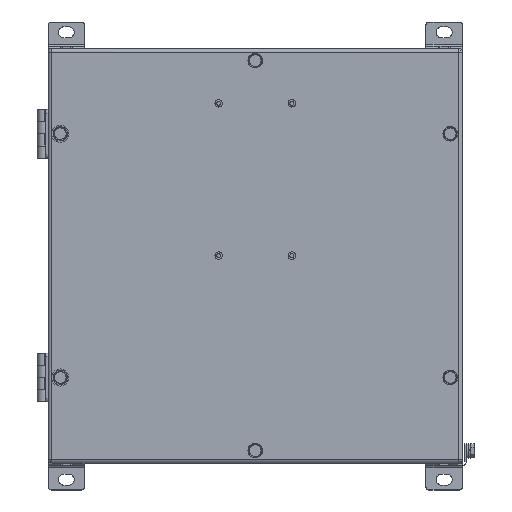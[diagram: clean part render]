
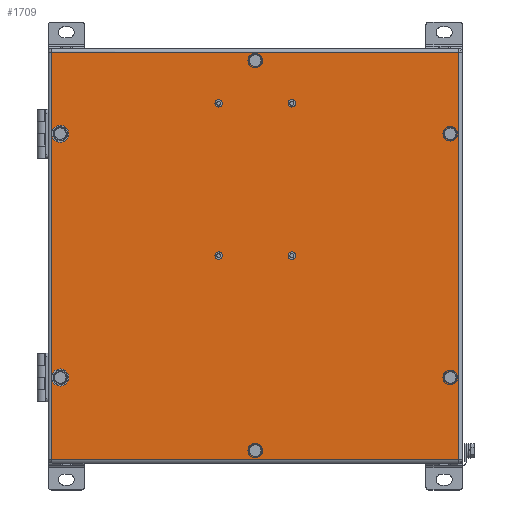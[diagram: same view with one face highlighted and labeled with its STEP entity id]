
A CAD part, top view. The second image highlights one B-rep face of the part: STEP entity #1709.
In plain terms, the highlighted planar face has unit normal (0, 0, 1).
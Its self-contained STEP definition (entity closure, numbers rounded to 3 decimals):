
#1161=CARTESIAN_POINT('',(167.0,-167.,150.));
#1162=VERTEX_POINT('',#1161);
#1228=CARTESIAN_POINT('',(167.0,167.,150.));
#1229=VERTEX_POINT('',#1228);
#1295=CARTESIAN_POINT('',(-167.0,-167.,150.));
#1296=VERTEX_POINT('',#1295);
#1368=CARTESIAN_POINT('',(167.0,-167.,150.));
#1369=DIRECTION('',(-1.0,0.0,0.0));
#1370=VECTOR('',#1369,334.0);
#1371=LINE('',#1368,#1370);
#1372=EDGE_CURVE('',#1162,#1296,#1371,.T.);
#1384=CARTESIAN_POINT('',(-167.0,167.,150.));
#1385=VERTEX_POINT('',#1384);
#1457=CARTESIAN_POINT('',(-167.0,-167.0,150.));
#1458=DIRECTION('',(0.0,1.0,0.0));
#1459=VECTOR('',#1458,334.0);
#1460=LINE('',#1457,#1459);
#1461=EDGE_CURVE('',#1296,#1385,#1460,.T.);
#1479=CARTESIAN_POINT('',(-167.0,167.,150.));
#1480=DIRECTION('',(1.0,0.0,0.0));
#1481=VECTOR('',#1480,334.0);
#1482=LINE('',#1479,#1481);
#1483=EDGE_CURVE('',#1385,#1229,#1482,.T.);
#1501=CARTESIAN_POINT('',(167.0,167.0,150.));
#1502=DIRECTION('',(0.0,-1.0,0.0));
#1503=VECTOR('',#1502,334.0);
#1504=LINE('',#1501,#1503);
#1505=EDGE_CURVE('',#1229,#1162,#1504,.T.);
#1588=CARTESIAN_POINT('',(0.,0.,150.));
#1589=DIRECTION('',(0.0,0.0,1.0));
#1590=DIRECTION('',(1.0,0.0,0.0));
#1591=AXIS2_PLACEMENT_3D('',#1588,#1589,#1590);
#1592=PLANE('',#1591);
#1593=ORIENTED_EDGE('',*,*,#1372,.F.);
#1594=ORIENTED_EDGE('',*,*,#1505,.F.);
#1595=ORIENTED_EDGE('',*,*,#1483,.F.);
#1596=ORIENTED_EDGE('',*,*,#1461,.F.);
#1597=EDGE_LOOP('',(#1593,#1594,#1595,#1596));
#1598=FACE_OUTER_BOUND('',#1597,.T.);
#1599=CARTESIAN_POINT('',(-156.25,100.,150.));
#1600=VERTEX_POINT('',#1599);
#1601=CARTESIAN_POINT('',(-160.0,100.,150.));
#1602=DIRECTION('',(0.0,0.0,-1.0));
#1603=DIRECTION('',(-1.0,0.0,0.0));
#1604=AXIS2_PLACEMENT_3D('',#1601,#1602,#1603);
#1605=CIRCLE('',#1604,3.75);
#1606=EDGE_CURVE('',#1600,#1600,#1605,.T.);
#1607=ORIENTED_EDGE('',*,*,#1606,.T.);
#1608=EDGE_LOOP('',(#1607));
#1609=FACE_BOUND('',#1608,.T.);
#1610=CARTESIAN_POINT('',(163.75,100.0,150.));
#1611=VERTEX_POINT('',#1610);
#1612=CARTESIAN_POINT('',(160.0,100.0,150.));
#1613=DIRECTION('',(0.0,0.0,-1.0));
#1614=DIRECTION('',(-1.0,0.0,0.0));
#1615=AXIS2_PLACEMENT_3D('',#1612,#1613,#1614);
#1616=CIRCLE('',#1615,3.75);
#1617=EDGE_CURVE('',#1611,#1611,#1616,.T.);
#1618=ORIENTED_EDGE('',*,*,#1617,.T.);
#1619=EDGE_LOOP('',(#1618));
#1620=FACE_BOUND('',#1619,.T.);
#1621=CARTESIAN_POINT('',(-156.25,-100.,150.));
#1622=VERTEX_POINT('',#1621);
#1623=CARTESIAN_POINT('',(-160.0,-100.,150.));
#1624=DIRECTION('',(0.0,0.0,-1.0));
#1625=DIRECTION('',(-1.0,0.0,0.0));
#1626=AXIS2_PLACEMENT_3D('',#1623,#1624,#1625);
#1627=CIRCLE('',#1626,3.75);
#1628=EDGE_CURVE('',#1622,#1622,#1627,.T.);
#1629=ORIENTED_EDGE('',*,*,#1628,.T.);
#1630=EDGE_LOOP('',(#1629));
#1631=FACE_BOUND('',#1630,.T.);
#1632=CARTESIAN_POINT('',(163.75,-100.0,150.0));
#1633=VERTEX_POINT('',#1632);
#1634=CARTESIAN_POINT('',(160.0,-100.0,150.0));
#1635=DIRECTION('',(0.0,0.0,-1.0));
#1636=DIRECTION('',(-1.0,0.0,0.0));
#1637=AXIS2_PLACEMENT_3D('',#1634,#1635,#1636);
#1638=CIRCLE('',#1637,3.75);
#1639=EDGE_CURVE('',#1633,#1633,#1638,.T.);
#1640=ORIENTED_EDGE('',*,*,#1639,.T.);
#1641=EDGE_LOOP('',(#1640));
#1642=FACE_BOUND('',#1641,.T.);
#1643=CARTESIAN_POINT('',(3.75,160.,150.));
#1644=VERTEX_POINT('',#1643);
#1645=CARTESIAN_POINT('',(0.,160.,150.));
#1646=DIRECTION('',(0.0,0.0,-1.0));
#1647=DIRECTION('',(-1.0,0.0,0.0));
#1648=AXIS2_PLACEMENT_3D('',#1645,#1646,#1647);
#1649=CIRCLE('',#1648,3.75);
#1650=EDGE_CURVE('',#1644,#1644,#1649,.T.);
#1651=ORIENTED_EDGE('',*,*,#1650,.T.);
#1652=EDGE_LOOP('',(#1651));
#1653=FACE_BOUND('',#1652,.T.);
#1654=CARTESIAN_POINT('',(3.75,-160.,150.));
#1655=VERTEX_POINT('',#1654);
#1656=CARTESIAN_POINT('',(0.,-160.,150.));
#1657=DIRECTION('',(0.0,0.0,-1.0));
#1658=DIRECTION('',(-1.0,0.0,0.0));
#1659=AXIS2_PLACEMENT_3D('',#1656,#1657,#1658);
#1660=CIRCLE('',#1659,3.75);
#1661=EDGE_CURVE('',#1655,#1655,#1660,.T.);
#1662=ORIENTED_EDGE('',*,*,#1661,.T.);
#1663=EDGE_LOOP('',(#1662));
#1664=FACE_BOUND('',#1663,.T.);
#1665=CARTESIAN_POINT('',(33.05,125.,150.));
#1666=VERTEX_POINT('',#1665);
#1667=CARTESIAN_POINT('',(30.,125.,150.));
#1668=DIRECTION('',(0.0,0.0,-1.0));
#1669=DIRECTION('',(-1.0,0.0,0.0));
#1670=AXIS2_PLACEMENT_3D('',#1667,#1668,#1669);
#1671=CIRCLE('',#1670,3.05);
#1672=EDGE_CURVE('',#1666,#1666,#1671,.T.);
#1673=ORIENTED_EDGE('',*,*,#1672,.T.);
#1674=EDGE_LOOP('',(#1673));
#1675=FACE_BOUND('',#1674,.T.);
#1676=CARTESIAN_POINT('',(-26.95,125.,150.));
#1677=VERTEX_POINT('',#1676);
#1678=CARTESIAN_POINT('',(-30.,125.,150.));
#1679=DIRECTION('',(0.0,0.0,-1.0));
#1680=DIRECTION('',(-1.0,0.0,0.0));
#1681=AXIS2_PLACEMENT_3D('',#1678,#1679,#1680);
#1682=CIRCLE('',#1681,3.05);
#1683=EDGE_CURVE('',#1677,#1677,#1682,.T.);
#1684=ORIENTED_EDGE('',*,*,#1683,.T.);
#1685=EDGE_LOOP('',(#1684));
#1686=FACE_BOUND('',#1685,.T.);
#1687=CARTESIAN_POINT('',(-26.95,0.,150.));
#1688=VERTEX_POINT('',#1687);
#1689=CARTESIAN_POINT('',(-30.,0.,150.));
#1690=DIRECTION('',(0.0,0.0,-1.0));
#1691=DIRECTION('',(-1.0,0.0,0.0));
#1692=AXIS2_PLACEMENT_3D('',#1689,#1690,#1691);
#1693=CIRCLE('',#1692,3.05);
#1694=EDGE_CURVE('',#1688,#1688,#1693,.T.);
#1695=ORIENTED_EDGE('',*,*,#1694,.T.);
#1696=EDGE_LOOP('',(#1695));
#1697=FACE_BOUND('',#1696,.T.);
#1698=CARTESIAN_POINT('',(33.05,0.,150.));
#1699=VERTEX_POINT('',#1698);
#1700=CARTESIAN_POINT('',(30.,0.,150.));
#1701=DIRECTION('',(0.0,0.0,-1.0));
#1702=DIRECTION('',(-1.0,0.0,0.0));
#1703=AXIS2_PLACEMENT_3D('',#1700,#1701,#1702);
#1704=CIRCLE('',#1703,3.05);
#1705=EDGE_CURVE('',#1699,#1699,#1704,.T.);
#1706=ORIENTED_EDGE('',*,*,#1705,.T.);
#1707=EDGE_LOOP('',(#1706));
#1708=FACE_BOUND('',#1707,.T.);
#1709=ADVANCED_FACE('',(#1598,#1609,#1620,#1631,#1642,#1653,#1664,#1675,#1686,#1697,#1708),#1592,.T.);
